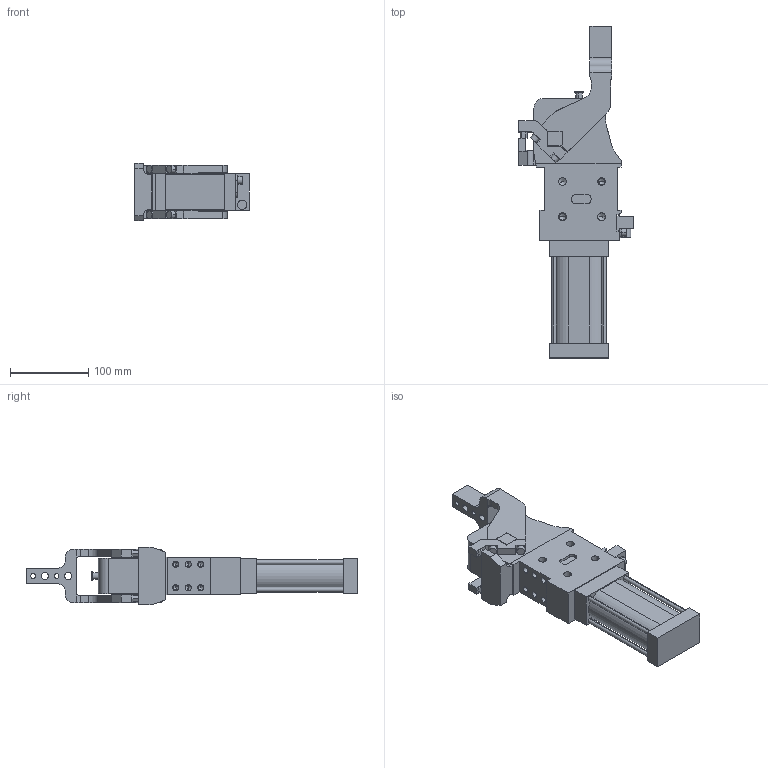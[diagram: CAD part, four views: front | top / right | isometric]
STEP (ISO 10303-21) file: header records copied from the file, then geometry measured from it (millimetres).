
FILE_DESCRIPTION (( 'STEP AP214' ), '1' );
FILE_NAME ('cpl50th3csi1g_75.STEP', '2023-01-26T10:05:02', ( '' ), ( '' ), 'SwSTEP 2.0', 'SolidWorks 2022', '' );
FILE_SCHEMA (( 'AUTOMOTIVE_DESIGN' ));
Length unit declared in the file: millimetre
Products named in the file (4): cpl50th3csi1g_75; blocchetto_VEP_0; meccanica_cpl_50_tassello_esterno; leva_h3cs_cpl50t
Assembly tree (3 placements, depth 2):
  cpl50th3csi1g_75
    meccanica_cpl_50_tassello_esterno
    blocchetto_VEP_0
    leva_h3cs_cpl50t
Bounding box: 146.5 x 424.5 x 74 mm (x, y, z)
Volume: 1430940 mm3; surface area: 175168 mm2
Topology: 3 solids, 3 shells, 438 faces, 1140 edges, 713 vertices
Faces by surface type: plane 226, cylinder 162, cone 50
Entity records: 14666 total; most frequent: CARTESIAN_POINT 2327, DIRECTION 2316, ORIENTED_EDGE 2188, EDGE_CURVE 1094, AXIS2_PLACEMENT_3D 784, LINE 748, VECTOR 748, VERTEX_POINT 713
